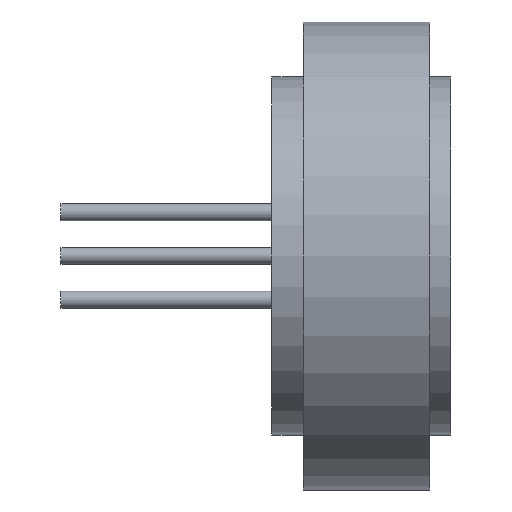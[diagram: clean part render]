
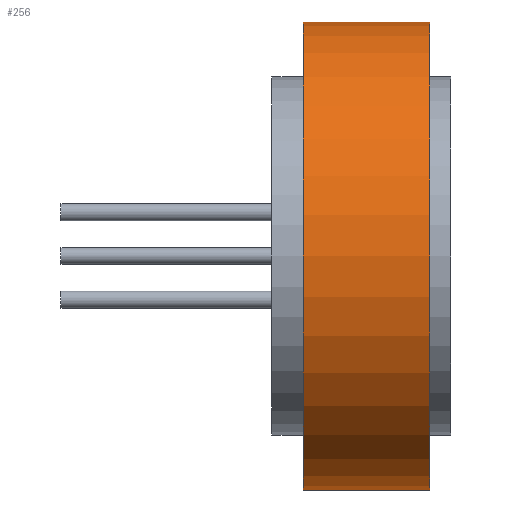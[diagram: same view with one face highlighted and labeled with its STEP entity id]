
A CAD part, left-side view. The second image highlights one B-rep face of the part: STEP entity #256.
In plain terms, the highlighted cylindrical face has radius 11.1 mm (diameter 22.2 mm), a partial arc.
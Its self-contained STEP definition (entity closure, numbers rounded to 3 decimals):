
#7 = AXIS2_PLACEMENT_3D ( 'NONE', #1048, #72, #1041 ) ;
#8 = DIRECTION ( 'NONE',  ( 0., 1., 0. ) ) ;
#49 = AXIS2_PLACEMENT_3D ( 'NONE', #187, #478, #1070 ) ;
#56 = ORIENTED_EDGE ( 'NONE', *, *, #582, .F. ) ;
#72 = DIRECTION ( 'NONE',  ( 0., 1., 0. ) ) ;
#73 = LINE ( 'NONE', #278, #379 ) ;
#84 = LINE ( 'NONE', #784, #858 ) ;
#147 = CARTESIAN_POINT ( 'NONE',  ( 0., 0., -11.1 ) ) ;
#152 = CARTESIAN_POINT ( 'NONE',  ( 0., 6., -11.1 ) ) ;
#187 = CARTESIAN_POINT ( 'NONE',  ( 0., 6., 0. ) ) ;
#191 = VERTEX_POINT ( 'NONE', #147 ) ;
#246 = EDGE_CURVE ( 'NONE', #1065, #1287, #73, .T. ) ;
#256 = ADVANCED_FACE ( 'NONE', ( #867 ), #1177, .T. ) ;
#278 = CARTESIAN_POINT ( 'NONE',  ( 0., 6., 11.1 ) ) ;
#293 = ORIENTED_EDGE ( 'NONE', *, *, #641, .T. ) ;
#312 = EDGE_LOOP ( 'NONE', ( #485, #56, #293, #1150 ) ) ;
#379 = VECTOR ( 'NONE', #474, 1000. ) ;
#393 = CARTESIAN_POINT ( 'NONE',  ( 0., 0., 11.1 ) ) ;
#474 = DIRECTION ( 'NONE',  ( 0., -1., 0. ) ) ;
#478 = DIRECTION ( 'NONE',  ( 0., -1., 0. ) ) ;
#485 = ORIENTED_EDGE ( 'NONE', *, *, #246, .F. ) ;
#512 = EDGE_CURVE ( 'NONE', #191, #1287, #568, .T. ) ;
#568 = CIRCLE ( 'NONE', #7, 11.1 ) ;
#582 = EDGE_CURVE ( 'NONE', #1178, #1065, #583, .T. ) ;
#583 = CIRCLE ( 'NONE', #1068, 11.1 ) ;
#641 = EDGE_CURVE ( 'NONE', #1178, #191, #84, .T. ) ;
#696 = DIRECTION ( 'NONE',  ( 0., -1., 0. ) ) ;
#784 = CARTESIAN_POINT ( 'NONE',  ( 0., 6., -11.1 ) ) ;
#858 = VECTOR ( 'NONE', #696, 1000. ) ;
#867 = FACE_OUTER_BOUND ( 'NONE', #312, .T. ) ;
#894 = DIRECTION ( 'NONE',  ( 0., 0., 1. ) ) ;
#909 = CARTESIAN_POINT ( 'NONE',  ( 0., 6., 11.1 ) ) ;
#995 = CARTESIAN_POINT ( 'NONE',  ( 0., 6., 0. ) ) ;
#1041 = DIRECTION ( 'NONE',  ( 0., 0., 1. ) ) ;
#1048 = CARTESIAN_POINT ( 'NONE',  ( 0., 0., 0. ) ) ;
#1065 = VERTEX_POINT ( 'NONE', #909 ) ;
#1068 = AXIS2_PLACEMENT_3D ( 'NONE', #995, #8, #894 ) ;
#1070 = DIRECTION ( 'NONE',  ( 0., 0., -1. ) ) ;
#1150 = ORIENTED_EDGE ( 'NONE', *, *, #512, .T. ) ;
#1177 = CYLINDRICAL_SURFACE ( 'NONE', #49, 11.1 ) ;
#1178 = VERTEX_POINT ( 'NONE', #152 ) ;
#1287 = VERTEX_POINT ( 'NONE', #393 ) ;
